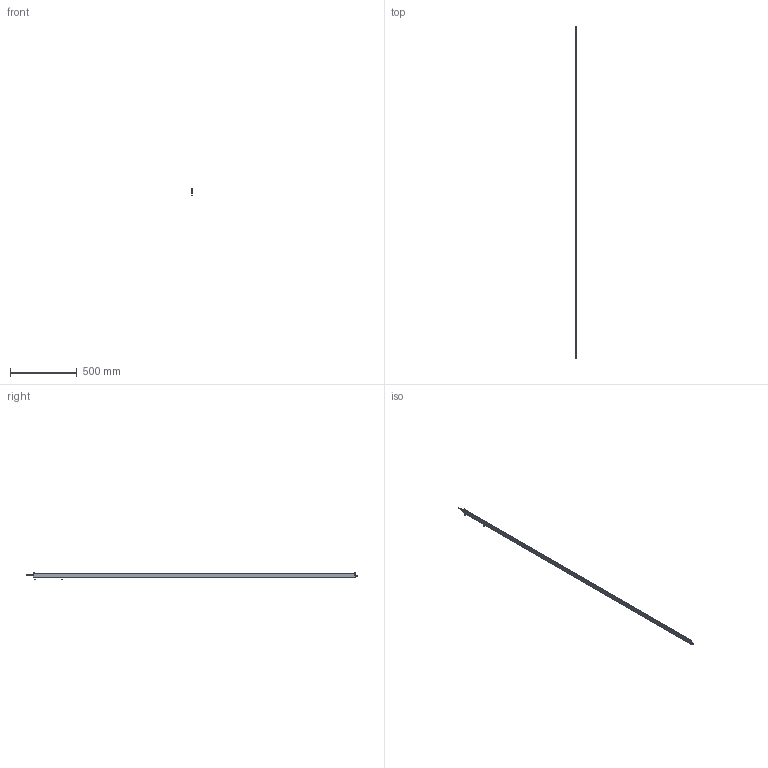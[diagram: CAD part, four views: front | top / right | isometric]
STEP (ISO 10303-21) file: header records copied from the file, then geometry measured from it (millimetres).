
FILE_DESCRIPTION (( 'STEP AP214' ), '1' );
FILE_NAME ('ILG-B-K2-2409mm.STEP', '2017-07-10T13:14:21', ( '' ), ( '' ), 'SwSTEP 2.0', 'SolidWorks 2016', '' );
FILE_SCHEMA (( 'AUTOMOTIVE_DESIGN' ));
Length unit declared in the file: millimetre
Products named in the file (1): ILG-B-K2-2409mm
Bounding box: 9 x 2482.5 x 46.21 mm (x, y, z)
Surface area: 399432.4 mm2 (no closed solid volume)
Topology: 0 solids, 15 shells, 702 faces, 1822 edges, 1157 vertices
Faces by surface type: cylinder 287, plane 266, cone 99, bspline 32, torus 18
Entity records: 31388 total; most frequent: CARTESIAN_POINT 6631, ORIENTED_EDGE 3597, DIRECTION 3488, EDGE_CURVE 1806, AXIS2_PLACEMENT_3D 1342, VERTEX_POINT 1157, VECTOR 804, LINE 804
